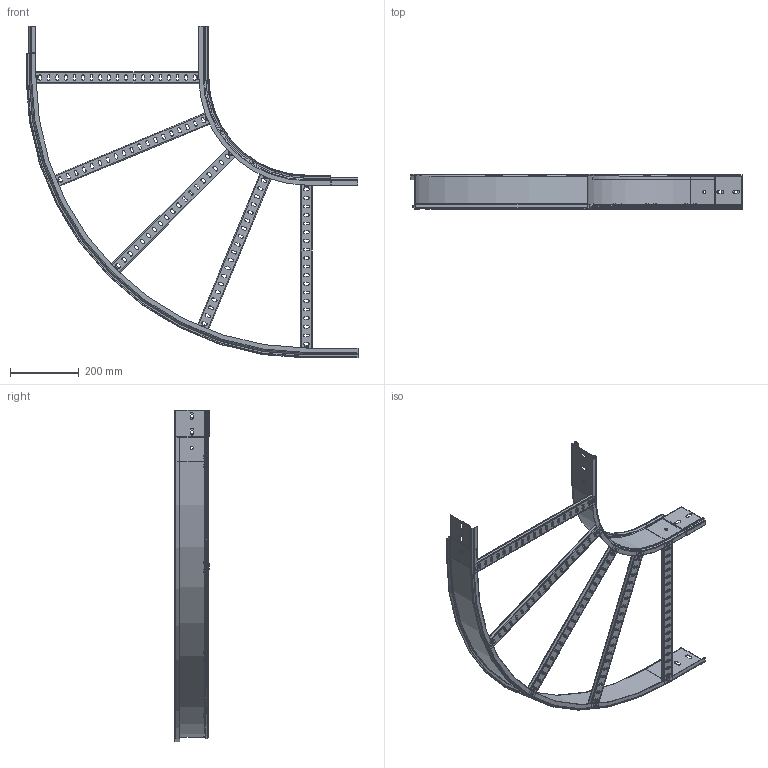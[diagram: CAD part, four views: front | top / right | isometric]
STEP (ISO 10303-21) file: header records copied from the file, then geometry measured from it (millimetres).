
FILE_DESCRIPTION (( 'STEP AP203' ), '1' );
FILE_NAME ('500x100.step', '2023-08-01T07:34:34', ( '' ), ( '' ), 'SwSTEP 2.0', 'SolidWorks 2022', '' );
FILE_SCHEMA (( 'CONFIG_CONTROL_DESIGN' ));
Length unit declared in the file: millimetre
Products named in the file (4): Travesaño RAT35 FER GS_500; FER_INTERIOR CP_Circular_Enchufable_100; FER_EXTERIOR CP_Circular_Enchufable_500x100; 500x100
Assembly tree (7 placements, depth 2):
  500x100
    FER_INTERIOR CP_Circular_Enchufable_100
    Travesaño RAT35 FER GS_500  x5
    FER_EXTERIOR CP_Circular_Enchufable_500x100
Bounding box: 966 x 101.5 x 966 mm (x, y, z)
Volume: 248652.9 mm3; surface area: 1009350.2 mm2
Topology: 5 solids, 11 shells, 986 faces, 2534 edges, 1586 vertices
Faces by surface type: plane 516, cylinder 348, torus 102, cone 20
Entity records: 13170 total; most frequent: CARTESIAN_POINT 2273, DIRECTION 2268, ORIENTED_EDGE 2060, EDGE_CURVE 1062, AXIS2_PLACEMENT_3D 807, VERTEX_POINT 658, VECTOR 654, LINE 654
